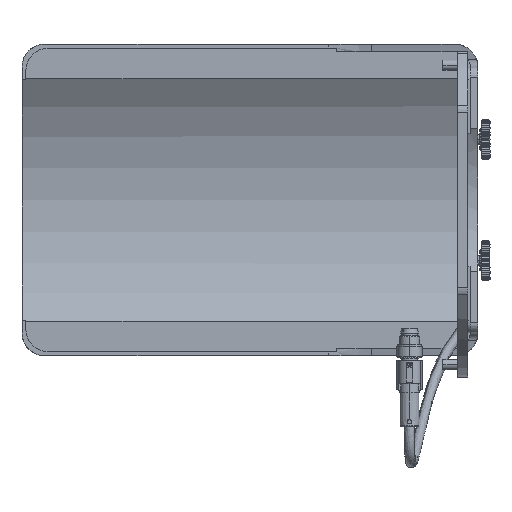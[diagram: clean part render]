
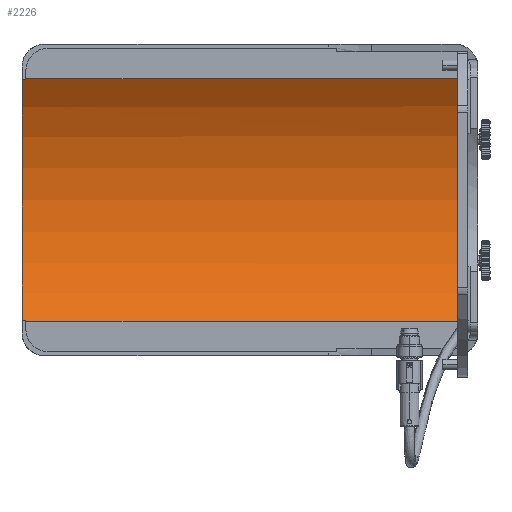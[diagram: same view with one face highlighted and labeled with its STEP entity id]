
A CAD part, left-side view. The second image highlights one B-rep face of the part: STEP entity #2226.
In plain terms, the highlighted cylindrical face has radius 82.5 mm (diameter 165 mm), a partial arc.
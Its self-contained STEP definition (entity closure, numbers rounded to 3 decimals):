
#894=CYLINDRICAL_SURFACE('',#25937,82.5);
#2226=ADVANCED_FACE('300435248_Y09_000',(#3276),#894,.F.);
#3276=FACE_OUTER_BOUND('',#15457,.T.);
#4284=VECTOR('',#27650,174.5);
#4285=VECTOR('',#27650,174.5);
#4286=VECTOR('',#27647,1.5);
#4287=VECTOR('',#27647,1.5);
#5292=LINE('',#17048,#4284);
#5293=LINE('',#17049,#4285);
#5294=LINE('',#17050,#4286);
#5295=LINE('',#17055,#4287);
#6338=ORIENTED_EDGE('',*,*,#11010,.T.);
#6339=ORIENTED_EDGE('',*,*,#11009,.T.);
#6340=ORIENTED_EDGE('',*,*,#11011,.F.);
#6341=ORIENTED_EDGE('',*,*,#11012,.F.);
#6342=ORIENTED_EDGE('',*,*,#11013,.T.);
#6343=ORIENTED_EDGE('',*,*,#11014,.T.);
#6344=ORIENTED_EDGE('',*,*,#11015,.F.);
#6345=ORIENTED_EDGE('',*,*,#11016,.F.);
#11009=EDGE_CURVE('150',#14100,#14104,#13339,.T.);
#11010=EDGE_CURVE('164',#14105,#14100,#5292,.T.);
#11011=EDGE_CURVE('168',#14106,#14104,#5293,.T.);
#11012=EDGE_CURVE('172',#14107,#14106,#13340,.T.);
#11013=EDGE_CURVE('176',#14107,#14108,#5294,.T.);
#11014=EDGE_CURVE('152',#14108,#14109,#13341,.T.);
#11015=EDGE_CURVE('156',#14110,#14109,#5295,.T.);
#11016=EDGE_CURVE('160',#14105,#14110,#13342,.T.);
#13339=CIRCLE('',#25936,82.5);
#13340=CIRCLE('',#25938,82.5);
#13341=CIRCLE('',#25939,82.5);
#13342=CIRCLE('',#25940,82.5);
#14100=VERTEX_POINT('109',#17037);
#14104=VERTEX_POINT('119',#17044);
#14105=VERTEX_POINT('123',#17048);
#14106=VERTEX_POINT('124',#17049);
#14107=VERTEX_POINT('125',#17050);
#14108=VERTEX_POINT('120',#17052);
#14109=VERTEX_POINT('121',#17053);
#14110=VERTEX_POINT('122',#17055);
#15457=EDGE_LOOP('',(#6338,#6339,#6340,#6341,#6342,#6343,#6344,#6345));
#17037=CARTESIAN_POINT('',(67.2,0.,-47.858));
#17044=CARTESIAN_POINT('',(67.2,0.,47.858));
#17046=CARTESIAN_POINT('',(0.,0.,0.));
#17047=CARTESIAN_POINT('',(0.,176.,0.));
#17048=CARTESIAN_POINT('',(67.2,174.5,-47.858));
#17049=CARTESIAN_POINT('',(67.2,174.5,47.858));
#17050=CARTESIAN_POINT('',(67.304,174.5,47.712));
#17051=CARTESIAN_POINT('',(0.,174.5,0.));
#17052=CARTESIAN_POINT('',(67.304,176.,47.712));
#17053=CARTESIAN_POINT('',(67.304,176.,-47.712));
#17054=CARTESIAN_POINT('',(0.,176.,0.));
#17055=CARTESIAN_POINT('',(67.304,174.5,-47.712));
#17056=CARTESIAN_POINT('',(0.,174.5,0.));
#25936=AXIS2_PLACEMENT_3D('',#17046,#27650,#27674);
#25937=AXIS2_PLACEMENT_3D('',#17047,#27650,#27675);
#25938=AXIS2_PLACEMENT_3D('',#17051,#27650,#27676);
#25939=AXIS2_PLACEMENT_3D('',#17054,#27647,#27677);
#25940=AXIS2_PLACEMENT_3D('',#17056,#27650,#27678);
#27647=DIRECTION('',(0.,1.,0.));
#27650=DIRECTION('',(0.,-1.,0.));
#27674=DIRECTION('',(0.815,0.,-0.58));
#27675=DIRECTION('',(0.815,0.,-0.58));
#27676=DIRECTION('',(0.816,0.,0.578));
#27677=DIRECTION('',(0.816,0.,0.578));
#27678=DIRECTION('',(0.815,0.,-0.58));
